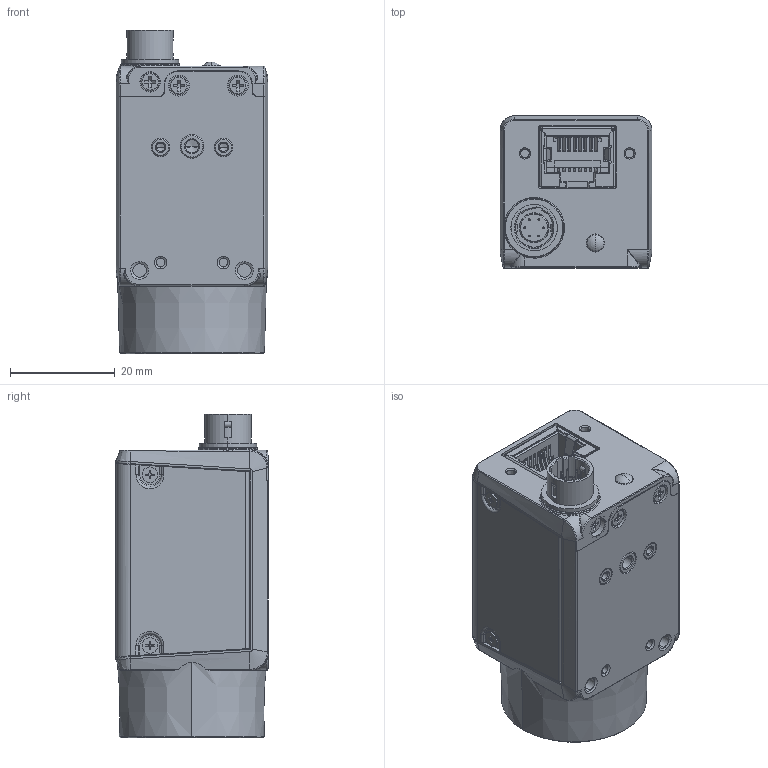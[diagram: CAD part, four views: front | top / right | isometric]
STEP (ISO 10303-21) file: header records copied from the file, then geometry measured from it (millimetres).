
FILE_DESCRIPTION((''),'2;1');
FILE_NAME('DH3-0195-6230_1','2023-11-24T14:10:38',('401332'),(''),'CREO PARAMETRIC BY PTC INC, 2020184','CREO PARAMETRIC BY PTC INC, 2020184','');
FILE_SCHEMA(('CONFIG_CONTROL_DESIGN','SHAPE_APPEARANCE_LAYERS_GROUPS'));
Products named in the file (1): DH3-0195-6230_1
Bounding box: 29 x 29.05 x 61.75 mm (x, y, z)
Volume: 30708.4 mm3; surface area: 23169.4 mm2
Topology: 1 solids, 15 shells, 2400 faces, 6647 edges, 4274 vertices
Faces by surface type: plane 1259, cylinder 656, bspline 208, cone 169, torus 67, extrusion 36, sphere 5
Entity records: 117565 total; most frequent: CARTESIAN_POINT 31011, ORIENTED_EDGE 13254, DIRECTION 11473, PRESENTATION_STYLE_ASSIGNMENT 7548, STYLED_ITEM 6665, CURVE_STYLE 6633, EDGE_CURVE 6627, VERTEX_POINT 4312
